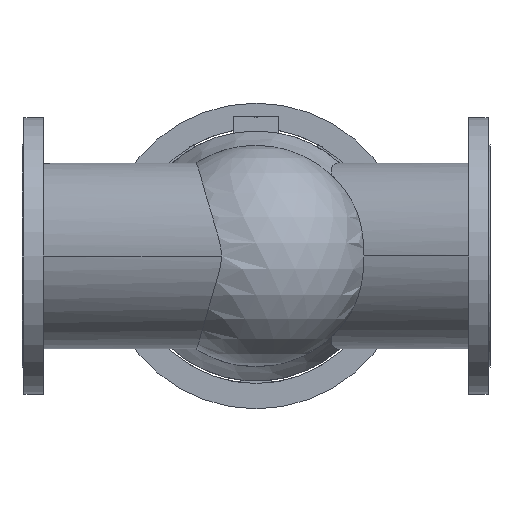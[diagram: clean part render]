
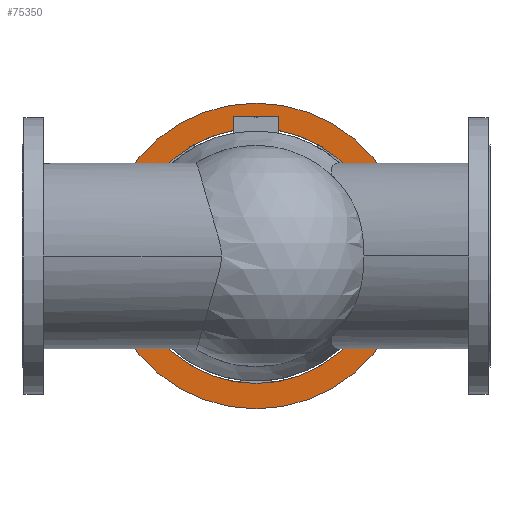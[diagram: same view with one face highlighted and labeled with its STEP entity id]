
A CAD part, front view. The second image highlights one B-rep face of the part: STEP entity #75350.
In plain terms, the highlighted planar face has unit normal (0, -1, 0).
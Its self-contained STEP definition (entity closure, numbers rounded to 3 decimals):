
#64450=CARTESIAN_POINT('',(223.,1051.3,0.));
#64460=VERTEX_POINT('',#64450);
#64490=CARTESIAN_POINT('',(490.,1051.3,0.));
#64500=DIRECTION('',(0.,1.,0.));
#64510=DIRECTION('',(1.,0.,0.));
#64520=AXIS2_PLACEMENT_3D('',#64490,#64500,#64510);
#64530=CIRCLE('',#64520,267.);
#64540=CARTESIAN_POINT('',(757.,1051.3,0.));
#64550=VERTEX_POINT('',#64540);
#64560=EDGE_CURVE('',#64460,#64550,#64530,.T.);
#74970=CARTESIAN_POINT('',(170.,1051.3,0.));
#74980=VERTEX_POINT('',#74970);
#75060=CARTESIAN_POINT('',(810.,1051.3,0.));
#75070=VERTEX_POINT('',#75060);
#75100=CARTESIAN_POINT('',(490.,1051.3,0.));
#75110=DIRECTION('',(0.,1.,0.));
#75120=DIRECTION('',(1.,0.,0.));
#75130=AXIS2_PLACEMENT_3D('',#75100,#75110,#75120);
#75140=CIRCLE('',#75130,320.);
#75150=EDGE_CURVE('',#74980,#75070,#75140,.T.);
#75200=CARTESIAN_POINT('',(783.5,1051.3,0.));
#75210=DIRECTION('',(0.,-1.,0.));
#75220=DIRECTION('',(-1.,0.,0.));
#75230=AXIS2_PLACEMENT_3D('',#75200,#75210,#75220);
#75240=PLANE('',#75230);
#75250=EDGE_CURVE('',#75070,#74980,#75140,.T.);
#75260=ORIENTED_EDGE('',*,*,#75250,.F.);
#75270=ORIENTED_EDGE('',*,*,#75150,.F.);
#75280=EDGE_LOOP('',(#75270,#75260));
#75290=FACE_OUTER_BOUND('',#75280,.T.);
#75300=ORIENTED_EDGE('',*,*,#64560,.T.);
#75310=EDGE_CURVE('',#64550,#64460,#64530,.T.);
#75320=ORIENTED_EDGE('',*,*,#75310,.T.);
#75330=EDGE_LOOP('',(#75320,#75300));
#75340=FACE_BOUND('',#75330,.T.);
#75350=ADVANCED_FACE('',(#75290,#75340),#75240,.T.);
